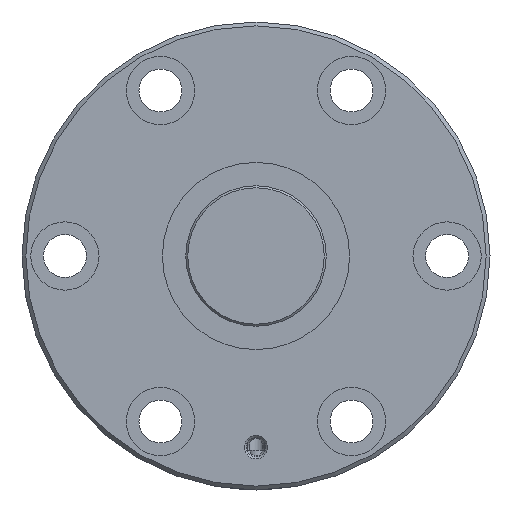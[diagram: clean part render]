
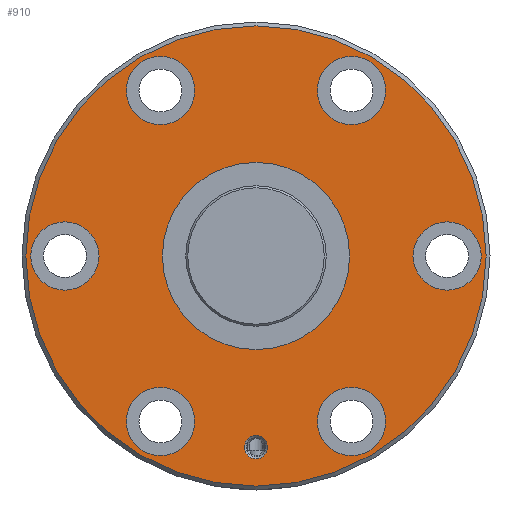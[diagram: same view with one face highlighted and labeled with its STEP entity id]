
A CAD part, left-side view. The second image highlights one B-rep face of the part: STEP entity #910.
In plain terms, the highlighted planar face has unit normal (-1, 0, 0).
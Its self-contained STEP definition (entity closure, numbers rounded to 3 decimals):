
#93=PLANE('',#1019);
#149=ORIENTED_EDGE('',*,*,#341,.T.);
#150=ORIENTED_EDGE('',*,*,#342,.T.);
#151=ORIENTED_EDGE('',*,*,#343,.T.);
#152=ORIENTED_EDGE('',*,*,#344,.T.);
#153=ORIENTED_EDGE('',*,*,#345,.T.);
#154=ORIENTED_EDGE('',*,*,#346,.T.);
#155=ORIENTED_EDGE('',*,*,#347,.T.);
#156=ORIENTED_EDGE('',*,*,#348,.T.);
#157=ORIENTED_EDGE('',*,*,#340,.F.);
#340=EDGE_CURVE('',#441,#441,#525,.T.);
#341=EDGE_CURVE('',#442,#442,#526,.T.);
#342=EDGE_CURVE('',#443,#443,#527,.F.);
#343=EDGE_CURVE('',#444,#444,#528,.T.);
#344=EDGE_CURVE('',#445,#445,#529,.T.);
#345=EDGE_CURVE('',#446,#446,#530,.T.);
#346=EDGE_CURVE('',#447,#447,#531,.T.);
#347=EDGE_CURVE('',#448,#448,#532,.T.);
#348=EDGE_CURVE('',#449,#449,#533,.T.);
#441=VERTEX_POINT('',#1524);
#442=VERTEX_POINT('',#1527);
#443=VERTEX_POINT('',#1529);
#444=VERTEX_POINT('',#1531);
#445=VERTEX_POINT('',#1533);
#446=VERTEX_POINT('',#1535);
#447=VERTEX_POINT('',#1537);
#448=VERTEX_POINT('',#1539);
#449=VERTEX_POINT('',#1541);
#525=CIRCLE('',#1018,59.);
#526=CIRCLE('',#1020,24.);
#527=CIRCLE('',#1021,8.75);
#528=CIRCLE('',#1022,3.);
#529=CIRCLE('',#1023,8.75);
#530=CIRCLE('',#1024,8.75);
#531=CIRCLE('',#1025,8.75);
#532=CIRCLE('',#1026,8.75);
#533=CIRCLE('',#1027,8.75);
#607=EDGE_LOOP('',(#149));
#608=EDGE_LOOP('',(#150));
#609=EDGE_LOOP('',(#151));
#610=EDGE_LOOP('',(#152));
#611=EDGE_LOOP('',(#153));
#612=EDGE_LOOP('',(#154));
#613=EDGE_LOOP('',(#155));
#614=EDGE_LOOP('',(#156));
#615=EDGE_LOOP('',(#157));
#749=FACE_BOUND('',#607,.T.);
#750=FACE_BOUND('',#608,.T.);
#751=FACE_BOUND('',#609,.T.);
#752=FACE_BOUND('',#610,.T.);
#753=FACE_BOUND('',#611,.T.);
#754=FACE_BOUND('',#612,.T.);
#755=FACE_BOUND('',#613,.T.);
#756=FACE_BOUND('',#614,.T.);
#757=FACE_BOUND('',#615,.T.);
#910=ADVANCED_FACE('',(#749,#750,#751,#752,#753,#754,#755,#756,#757),#93,
 .T.);
#1018=AXIS2_PLACEMENT_3D('',#1523,#1190,#1191);
#1019=AXIS2_PLACEMENT_3D('',#1525,#1192,#1193);
#1020=AXIS2_PLACEMENT_3D('',#1526,#1194,#1195);
#1021=AXIS2_PLACEMENT_3D('',#1528,#1196,#1197);
#1022=AXIS2_PLACEMENT_3D('',#1530,#1198,#1199);
#1023=AXIS2_PLACEMENT_3D('',#1532,#1200,#1201);
#1024=AXIS2_PLACEMENT_3D('',#1534,#1202,#1203);
#1025=AXIS2_PLACEMENT_3D('',#1536,#1204,#1205);
#1026=AXIS2_PLACEMENT_3D('',#1538,#1206,#1207);
#1027=AXIS2_PLACEMENT_3D('',#1540,#1208,#1209);
#1190=DIRECTION('',(1.,0.,0.));
#1191=DIRECTION('',(0.,0.,-1.));
#1192=DIRECTION('',(-1.,0.,0.));
#1193=DIRECTION('',(0.,0.,1.));
#1194=DIRECTION('',(1.,0.,0.));
#1195=DIRECTION('',(0.,0.,-1.));
#1196=DIRECTION('',(-1.,0.,0.));
#1197=DIRECTION('',(0.,0.,1.));
#1198=DIRECTION('',(1.,0.,0.));
#1199=DIRECTION('',(0.,0.,-1.));
#1200=DIRECTION('',(1.,0.,0.));
#1201=DIRECTION('',(0.,0.,-1.));
#1202=DIRECTION('',(1.,0.,0.));
#1203=DIRECTION('',(0.,0.,-1.));
#1204=DIRECTION('',(1.,0.,0.));
#1205=DIRECTION('',(0.,0.,-1.));
#1206=DIRECTION('',(1.,0.,0.));
#1207=DIRECTION('',(0.,0.,-1.));
#1208=DIRECTION('',(1.,0.,0.));
#1209=DIRECTION('',(0.,0.,-1.));
#1523=CARTESIAN_POINT('',(0.,0.,0.));
#1524=CARTESIAN_POINT('',(0.,0.,-59.));
#1525=CARTESIAN_POINT('',(0.,59.,0.));
#1526=CARTESIAN_POINT('',(0.,0.,0.));
#1527=CARTESIAN_POINT('',(0.,0.,-24.));
#1528=CARTESIAN_POINT('',(0.,49.,0.));
#1529=CARTESIAN_POINT('',(0.,49.,8.75));
#1530=CARTESIAN_POINT('',(0.,0.,-49.));
#1531=CARTESIAN_POINT('',(0.,0.,-52.));
#1532=CARTESIAN_POINT('',(0.,-49.,0.));
#1533=CARTESIAN_POINT('',(0.,-49.,-8.75));
#1534=CARTESIAN_POINT('',(0.,24.5,42.435));
#1535=CARTESIAN_POINT('',(0.,24.5,33.685));
#1536=CARTESIAN_POINT('',(0.,-24.5,-42.435));
#1537=CARTESIAN_POINT('',(0.,-24.5,-51.185));
#1538=CARTESIAN_POINT('',(0.,-24.5,42.435));
#1539=CARTESIAN_POINT('',(0.,-24.5,33.685));
#1540=CARTESIAN_POINT('',(0.,24.5,-42.435));
#1541=CARTESIAN_POINT('',(0.,24.5,-51.185));
